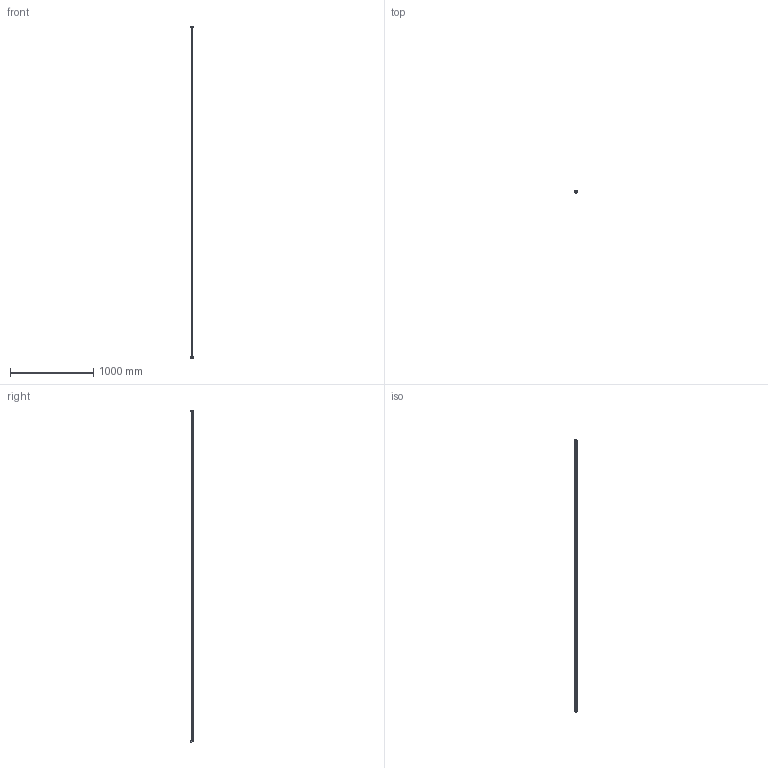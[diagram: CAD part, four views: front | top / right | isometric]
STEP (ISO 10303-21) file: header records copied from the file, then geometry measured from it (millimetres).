
FILE_DESCRIPTION((''),'2;1');
FILE_NAME('ROLLENSCHIENE_C','2021-12-23T04:10:33',('ac91sw'),(''),'CREO PARAMETRIC BY PTC INC, 2020044','CREO PARAMETRIC BY PTC INC, 2020044','');
FILE_SCHEMA(('AUTOMOTIVE_DESIGN { 1 0 10303 214 1 1 1 1 }'));
Length unit declared in the file: millimetre
Products named in the file (9): ROLLENSCHIENE_C_SKEL; ROLLENSCHIENE_C_RAIL1; ROLLENSCHIENE_C_BAND; R161923951_R_Z; R161923952_R_Z; 990000166_Z; 990000165_Z; R161923950_R_Z; ROLLENSCHIENE_C
Assembly tree (9 placements, depth 3):
  ROLLENSCHIENE_C
    ROLLENSCHIENE_C_SKEL
    ROLLENSCHIENE_C_RAIL1
    ROLLENSCHIENE_C_BAND
    R161923950_R_Z  x2
      R161923951_R_Z
      R161923952_R_Z
      990000166_Z
      990000165_Z
Bounding box: 27.81 x 31.6 x 3990.3 mm (x, y, z)
Volume: 1450609 mm3; surface area: 640156.5 mm2
Topology: 10 solids, 10 shells, 973 faces, 2643 edges, 2225 vertices
Faces by surface type: cylinder 626, plane 327, cone 12, torus 8
Entity records: 31077 total; most frequent: DIRECTION 5351, CARTESIAN_POINT 5113, ORIENTED_EDGE 4228, EDGE_CURVE 2114, AXIS2_PLACEMENT_3D 2081, VERTEX_POINT 1390, EDGE_LOOP 1278, VECTOR 1189
